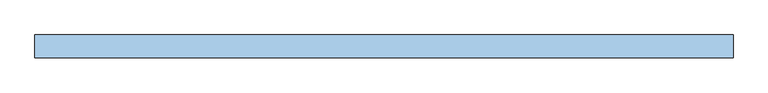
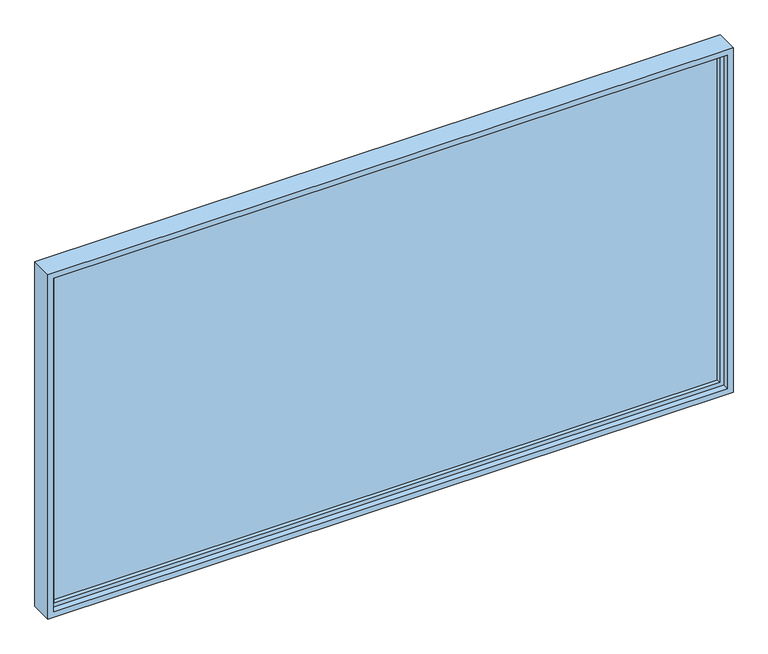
"""IFC4 building model written with IfcOpenShell, lengths in millimetres: window geometry, WD000-창 : WD000-창 4800x2550."""

import ifcopenshell
import ifcopenshell.guid

model = None  # the IFC model being written
_history = None  # IfcOwnerHistory: only IFC2X3 demands one
_inside = {}  # id of a spatial element -> (the spatial element, [elements in it])
_under = {}  # id of a project, library or spatial element -> (it, [spatial elements below it])
_declared = {}  # id of a project -> (the project, [libraries it declares])
_typed = {}  # id of a type object -> (the type object, [elements of that type])
_made_of = {}  # id of a material, layer set ... -> (it, [elements and type objects made of it])


def new_model(schema):
    """Start an empty IFC model of exactly this schema.

    Asked for "IFC4X3", IfcOpenShell would pick the latest addendum, in which some entities
    have other attributes; the version numbers below select the first issue.
    IFC2X3 requires an IfcOwnerHistory on every rooted entity: one is made here for all.
    """
    global model, _history
    if schema == "IFC4X3":
        model = ifcopenshell.file(schema_version=(4, 3, 0, 0))
    else:
        model = ifcopenshell.file(schema=schema)
    _inside.clear()
    _under.clear()
    _declared.clear()
    _typed.clear()
    _made_of.clear()
    _history = None
    if model.schema == "IFC2X3":
        org = make("IfcOrganization", Name="unknown")
        user = make(
            "IfcPersonAndOrganization",
            ThePerson=make("IfcPerson", FamilyName="unknown"),
            TheOrganization=org,
        )
        app = make(
            "IfcApplication",
            ApplicationDeveloper=org,
            Version="unknown",
            ApplicationFullName="unknown",
            ApplicationIdentifier="unknown",
        )
        _history = make(
            "IfcOwnerHistory",
            OwningUser=user,
            OwningApplication=app,
            ChangeAction="ADDED",
            CreationDate=0,
        )
    return model


def make(cls, **values):
    """One entity of the class cls with the attributes given. An attribute that is None is left unset."""
    return model.create_entity(
        cls, **{name: value for name, value in values.items() if value is not None}
    )


def rooted(cls, **values):
    """An entity with a GlobalId (a new one), such as an element, a storey or a relation."""
    return make(cls, GlobalId=ifcopenshell.guid.new(), OwnerHistory=_history, **values)


def si_unit(unit_type, name, prefix=None):
    """IfcSIUnit, for example si_unit("LENGTHUNIT", "METRE", prefix="MILLI")."""
    return make("IfcSIUnit", UnitType=unit_type, Prefix=prefix, Name=name)


def assignment(units):
    """IfcUnitAssignment: the units of a project."""
    return None if units is None else make("IfcUnitAssignment", Units=units)


def point(xyz):
    """IfcCartesianPoint."""
    return None if xyz is None else make("IfcCartesianPoint", Coordinates=xyz)


def direction(xyz):
    """IfcDirection."""
    return None if xyz is None else make("IfcDirection", DirectionRatios=xyz)


def frame(location, z_axis=None, x_axis=None):
    """IfcAxis2Placement3D, a coordinate frame: its origin and axes. An axis left out is left unset."""
    return make(
        "IfcAxis2Placement3D",
        Location=point(location),
        Axis=direction(z_axis),
        RefDirection=direction(x_axis),
    )


def origin():
    """The frame at (0, 0, 0) with its axes left unset."""
    return frame((0.0, 0.0, 0.0))


def place(relative_to, where):
    """IfcLocalPlacement: puts the frame where relative to a parent placement (None: the world)."""
    return make(
        "IfcLocalPlacement", PlacementRelTo=relative_to, RelativePlacement=where
    )


def context(
    kind, dimensions, precision=None, world=None, true_north=None, identifier=None
):
    """IfcGeometricRepresentationContext, for example the 3D "Model" context."""
    return make(
        "IfcGeometricRepresentationContext",
        ContextIdentifier=identifier,
        ContextType=kind,
        CoordinateSpaceDimension=dimensions,
        Precision=precision,
        WorldCoordinateSystem=world,
        TrueNorth=true_north,
    )


def project(units=None, contexts=None):
    """IfcProject with its units and contexts."""
    return rooted(
        "IfcProject",
        Name="project",
        RepresentationContexts=contexts,
        UnitsInContext=assignment(units),
    )


def spatial(cls, under=None, at=None, **own):
    """A site, building, storey or space (cls), placed at a placement, below another one or the project."""
    s = rooted(cls, ObjectPlacement=at, **own)
    if under is not None:
        _under.setdefault(under.id(), (under, []))[1].append(s)
    return s


def polyline(points):
    """IfcPolyline through the points."""
    return make("IfcPolyline", Points=[point(p) for p in points])


def outline(outer, holes=None, kind="AREA"):
    """IfcArbitraryClosedProfileDef: a profile drawn as a closed curve; with holes, ...WithVoids."""
    if holes is None:
        return make("IfcArbitraryClosedProfileDef", ProfileType=kind, OuterCurve=outer)
    return make(
        "IfcArbitraryProfileDefWithVoids",
        ProfileType=kind,
        OuterCurve=outer,
        InnerCurves=holes,
    )


def extrude(swept, where, along, depth):
    """IfcExtrudedAreaSolid: the profile swept, set in the frame where, extruded along a direction by depth."""
    return make(
        "IfcExtrudedAreaSolid",
        SweptArea=swept,
        Position=where,
        ExtrudedDirection=direction(along),
        Depth=depth,
    )


def shape(context_of_items, identifier, shape_type, items):
    """IfcShapeRepresentation: the items that make up one representation, for example the "Body"."""
    return make(
        "IfcShapeRepresentation",
        ContextOfItems=context_of_items,
        RepresentationIdentifier=identifier,
        RepresentationType=shape_type,
        Items=items,
    )


def source(mapping_origin, context_of_items, identifier, shape_type, items):
    """IfcRepresentationMap: a shape defined once, which mapped items show again and again."""
    return make(
        "IfcRepresentationMap",
        MappingOrigin=mapping_origin,
        MappedRepresentation=shape(context_of_items, identifier, shape_type, items),
    )


def transform(
    local_origin,
    x_axis=None,
    y_axis=None,
    z_axis=None,
    scale=None,
    scale2=None,
    scale3=None,
    uniform=True,
):
    """IfcCartesianTransformationOperator3D, or its non-uniform kind. x_axis, y_axis, z_axis: its Axis1, 2, 3."""
    if uniform:
        return make(
            "IfcCartesianTransformationOperator3D",
            Axis1=direction(x_axis),
            Axis2=direction(y_axis),
            LocalOrigin=point(local_origin),
            Scale=scale,
            Axis3=direction(z_axis),
        )
    return make(
        "IfcCartesianTransformationOperator3DnonUniform",
        Axis1=direction(x_axis),
        Axis2=direction(y_axis),
        LocalOrigin=point(local_origin),
        Scale=scale,
        Axis3=direction(z_axis),
        Scale2=scale2,
        Scale3=scale3,
    )


def mapped(mapping_source, mapping_target):
    """IfcMappedItem: shows the shape of a source again, moved by a transform."""
    return make(
        "IfcMappedItem", MappingSource=mapping_source, MappingTarget=mapping_target
    )


def made_of(thing, what):
    """Note that an element or type object is made of a material, layer set ...; save() writes the relation."""
    if what is not None:
        _made_of.setdefault(what.id(), (what, []))[1].append(thing)
    return thing


def element(
    cls,
    number,
    at=None,
    inside=None,
    cuts=None,
    type_object=None,
    material=None,
    context=None,
    identifier="Body",
    shape_type=None,
    held_by="IfcProductDefinitionShape",
    body=None,
    shapes=None,
    **own,
):
    """One element of the class cls, such as IfcWall. Its Tag is "e" and its number.

    at: its placement. inside: the storey or other place that contains it. cuts: it is an
    opening in that element (IfcRelVoidsElement). A single representation is given by context,
    identifier, shape_type and body (its items); several are given by shapes. held_by: the class
    of the entity that holds the representations. save() writes the other relations.
    """
    e = rooted(cls, Tag="e%d" % number, ObjectPlacement=at, **own)
    if body is not None:
        shapes = [shape(context, identifier, shape_type, body)]
    if shapes is not None:
        e.Representation = make(held_by, Representations=shapes)
    if inside is not None:
        _inside.setdefault(inside.id(), (inside, []))[1].append(e)
    if cuts is not None:
        rooted(
            "IfcRelVoidsElement", RelatingBuildingElement=cuts, RelatedOpeningElement=e
        )
    if type_object is not None:
        _typed.setdefault(type_object.id(), (type_object, []))[1].append(e)
    return made_of(e, material)


def aggregate(whole, parts):
    """IfcRelAggregates: a whole, such as a stair, and the parts it consists of."""
    return rooted("IfcRelAggregates", RelatingObject=whole, RelatedObjects=parts)


def save(model, path):
    """Write the relations noted so far, then the file.

    IfcRelAggregates (storeys below a building ...), IfcRelContainedInSpatialStructure (elements
    in a storey), IfcRelDefinesByType, IfcRelAssociatesMaterial and IfcRelDeclares: one each for
    every whole, place, type object, material and project.
    """
    for whole, parts in _under.values():
        aggregate(whole, parts)
    for where, things in _inside.values():
        rooted(
            "IfcRelContainedInSpatialStructure",
            RelatedElements=things,
            RelatingStructure=where,
        )
    for kind, things in _typed.values():
        rooted("IfcRelDefinesByType", RelatedObjects=things, RelatingType=kind)
    for what, things in _made_of.values():
        rooted("IfcRelAssociatesMaterial", RelatedObjects=things, RelatingMaterial=what)
    for by, libraries in _declared.values():
        rooted("IfcRelDeclares", RelatingContext=by, RelatedDefinitions=libraries)
    model.write(path)


def window_0159f90e(model_context):
    return source(origin(), model_context, "Body", "SweptSolid", [
        extrude(outline(polyline([(2330.0, 6.0), (2330.0, -6.0), (-2330.0, -6.0), (-2330.0, 6.0), (2330.0, 6.0)])), frame((0.0, 0.0, 870.0), z_axis=(0.0, 0.0, 1.0), x_axis=(1.0, 0.0, 0.0)), (0.0, 0.0, 1.0), 2410.0),
        extrude(outline(polyline([(3310.0, -2360.0), (840.0, -2360.0), (840.0, 2360.0), (3310.0, 2360.0), (3310.0, -2360.0)]), holes=[polyline([(3280.0, 2330.0), (870.0, 2330.0), (870.0, -2330.0), (3280.0, -2330.0), (3280.0, 2330.0)])]), frame((0.0, -35.0, 0.0), z_axis=(0.0, 1.0, 0.0), x_axis=(0.0, 0.0, 1.0)), (0.0, 0.0, 1.0), 70.0),
        extrude(outline(polyline([(3350.0, 2400.0), (3350.0, -2400.0), (800.0, -2400.0), (800.0, 2400.0), (3350.0, 2400.0)]), holes=[polyline([(3310.0, 2360.0), (840.0, 2360.0), (840.0, -2360.0), (3310.0, -2360.0), (3310.0, 2360.0)])]), frame((0.0, -78.6430223, 0.0), z_axis=(0.0, 1.0, 0.0), x_axis=(0.0, 0.0, 1.0)), (0.0, 0.0, 1.0), 157.2860446),
    ])


if __name__ == "__main__":
    model = new_model("IFC4")
    model_context = context("Model", 3, world=origin())
    ifc_project = project(units=[si_unit("LENGTHUNIT", "METRE", prefix="MILLI")], contexts=[model_context])
    site = spatial("IfcSite", under=ifc_project)
    building = spatial("IfcBuilding", under=site)
    placement = place(None, origin())
    window_shape = window_0159f90e(model_context)
    element("IfcWindow", 1, ObjectType="WD000-창 : WD000-창 4800x2550", at=placement, inside=building, context=model_context, shape_type="MappedRepresentation", body=[
        mapped(window_shape, transform((0.0, 0.0, 0.0), x_axis=(1.0, 0.0, 0.0), y_axis=(0.0, 1.0, 0.0), z_axis=(0.0, 0.0, 1.0))),
    ])
    save(model, "model.ifc")
